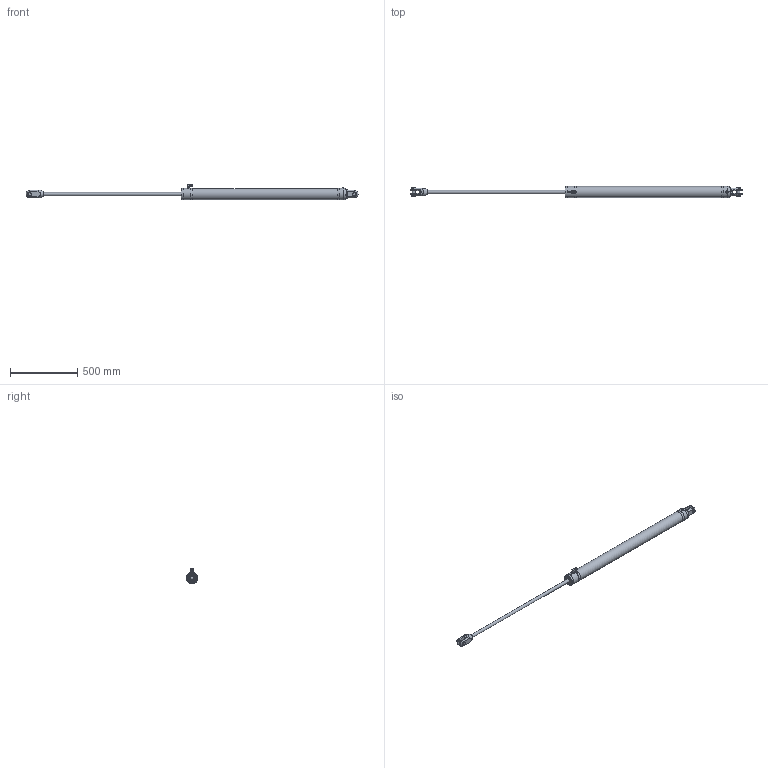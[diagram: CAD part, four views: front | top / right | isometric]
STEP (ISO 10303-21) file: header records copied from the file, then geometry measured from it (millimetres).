
FILE_DESCRIPTION(/* description */ (''),/* implementation_level */ '2;1');
FILE_NAME(/* name */ 'Q:\AA BRAND HYDRAULICS\HYDRAULICS FAMILY DIRECTORY\HYDRAULICS\CYLINDERS\RAMS\ALUMINIUM - STANDARD SINGLE ACTING (-0006 To -0260)\RSA-0030-S1025-NP-71\RSA-0030-S1025-NP-71 (Open).stp',/* time_stamp */ '2018-02-21T14:19:29+00:00',/* author */ ('Lorena'),/* organization */ (''),/* preprocessor_version */ 'ST-DEVELOPER v17',/* originating_system */ 'Autodesk Inventor 2018',/* authorisation */ '');
FILE_SCHEMA (('AUTOMOTIVE_DESIGN { 1 0 10303 214 3 1 1 }'));
Products named in the file (1): RSA-0030-S1025-NP-71 (Open)
Bounding box: 2473.41 x 85.6 x 116.4 mm (x, y, z)
Volume: 7521923.9 mm3; surface area: 472736.8 mm2
Topology: 2 solids, 5 shells, 1750 faces, 4722 edges, 3129 vertices
Faces by surface type: plane 971, bspline 573, cone 113, cylinder 85, sphere 4, torus 4
Full cylindrical faces by diameter (mm): 4 x1, 4.134 x1, 4.2 x2, 4.4 x1, 5 x1, 5.1 x1, 7 x1, 9 x1, 9.728 x1, 10 x2, 11.11 x1, 11.157 x1, 11.5 x1, 11.8 x1, 12 x1, 12.157 x1, 13 x1, 13.157 x2, 14.5 x2, 16 x3, 18.3 x3, 22 x1, 22.23 x2, 24 x1, 27.788 x2, 68 x2, 73 x1, 82.6 x1, 85.6 x4
Entity records: 62371 total; most frequent: CARTESIAN_POINT 20670, ORIENTED_EDGE 9430, DIRECTION 6158, EDGE_CURVE 4715, VERTEX_POINT 3130, LINE 2912, VECTOR 2912, EDGE_LOOP 1917
